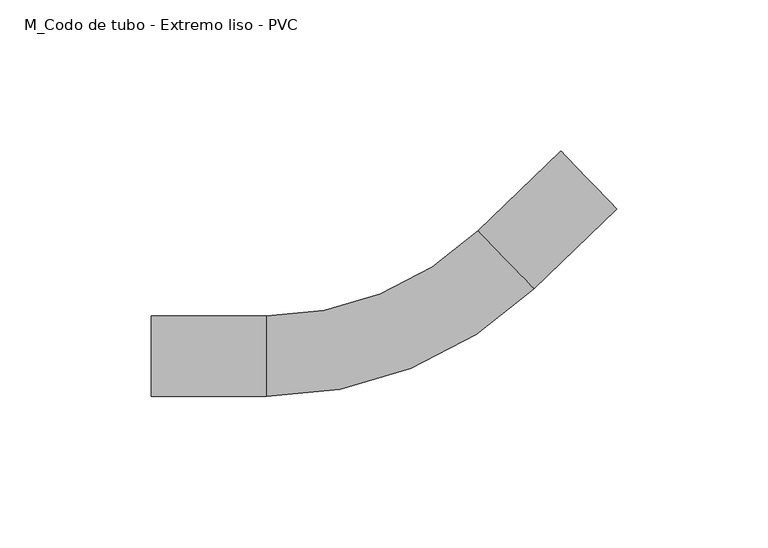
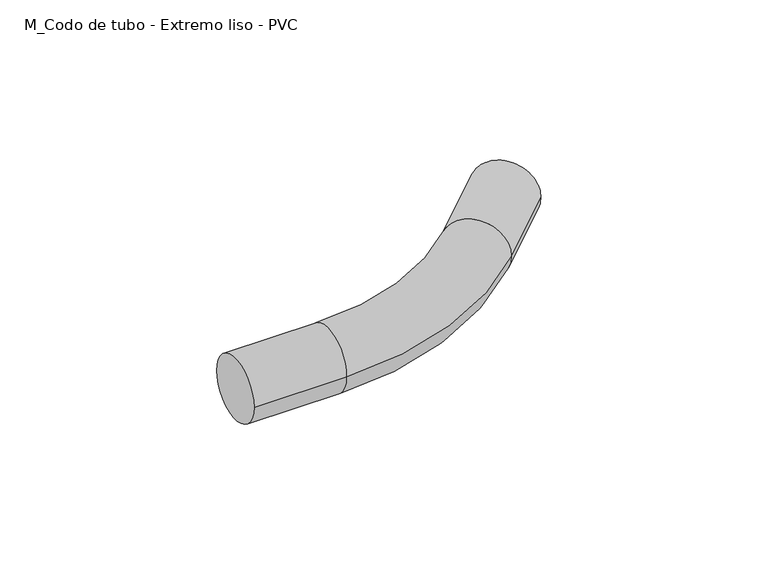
"""IFC4 building model written with IfcOpenShell, lengths in millimetres: cable carrier fitting geometry, M_Codo de tubo - Extremo liso - PVC : CODO ILUMINACION."""

from ifc_helpers import new_model, si_unit, point, frame, origin, place, context, project, spatial, circle_curve, ellipse_curve, trimmed, source, transform, mapped, element, save
from ifc_brep_helpers import plane_surface, cylinder_surface, revolved_surface, advanced_brep


def m_codo_de_tubo_extremo_liso_pvc_ebb1d42c(model_context):
    return source(origin(), model_context, "Body", "AdvancedBrep", [
        advanced_brep(
        [(-84.161185, -13.335, 0.0), (-84.161185, 13.335, 0.0), (-46.061185, -13.335, 0.0), (-46.061185, 13.335, 0.0), (23.944817, 41.5463684, 0.0), (42.4369685, 22.328428, 0.0), (69.8911691, 48.7457872, 0.0), (51.3990176, 67.9637276, 0.0)],
        [
            (0, 1, circle_curve(frame((-84.161185, 0.0, 0.0), z_axis=(-1.0, 0.0, 0.0), x_axis=(0.0, 1.0, 0.0)), 13.335)),
            (1, 0, circle_curve(frame((-84.161185, 0.0, 0.0), z_axis=(-1.0, 0.0, 0.0), x_axis=(0.0, 1.0, 0.0)), 13.335)),
            (0, 2),
            (2, 3, circle_curve(frame((-46.061185, 0.0, 0.0), z_axis=(-1.0, 0.0, 0.0), x_axis=(0.0, 1.0, 0.0)), 13.335)),
            (3, 1),
            (3, 2, circle_curve(frame((-46.061185, 0.0, 0.0), z_axis=(-1.0, 0.0, 0.0), x_axis=(0.0, 1.0, 0.0)), 13.335)),
            (4, 3, circle_curve(frame((-46.061185, 114.3, 0.0), z_axis=(0.0, 0.0, -1.0), x_axis=(0.0, -1.0, 0.0)), 100.965)),
            (2, 5, circle_curve(frame((-46.061185, 114.3, 0.0), z_axis=(0.0, 0.0, 1.0), x_axis=(0.0, -1.0, 0.0)), 127.635)),
            (5, 4, circle_curve(frame((33.1908927, 31.9373982, 0.0), z_axis=(-0.7205826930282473, -0.6933690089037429, 0.0), x_axis=(-0.6933690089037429, 0.7205826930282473, 0.0)), 13.335)),
            (4, 5, circle_curve(frame((33.1908927, 31.9373982, 0.0), z_axis=(-0.7205826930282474, -0.6933690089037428, 0.0), x_axis=(-0.6933690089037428, 0.7205826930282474, 0.0)), 13.335)),
            (6, 7, circle_curve(frame((60.6450933, 58.3547574, 0.0), z_axis=(0.7205826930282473, 0.693369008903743, 0.0), x_axis=(-0.693369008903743, 0.7205826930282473, 0.0)), 13.335)),
            (7, 6, circle_curve(frame((60.6450933, 58.3547574, 0.0), z_axis=(0.7205826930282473, 0.693369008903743, 0.0), x_axis=(-0.693369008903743, 0.7205826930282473, 0.0)), 13.335)),
            (5, 6),
            (7, 4),
        ],
        [
            plane_surface(frame((-84.161185, 0.0, 0.0), z_axis=(-1.0, 0.0, 0.0), x_axis=(0.0, 0.0, 1.0))),
            cylinder_surface(frame((-84.161185, 0.0, 0.0), z_axis=(-1.0, 0.0, 0.0), x_axis=(0.0, 1.0, 0.0)), 13.335),
            revolved_surface(trimmed(ellipse_curve(frame((-46.061185, 0.0, 0.0), z_axis=(-1.0, 0.0, 0.0), x_axis=(0.0, 1.0, 0.0)), 13.335, 13.335), [point((-46.061185, -13.335, 0.0))], [point((-46.061185, 13.335, 0.0))], True, "CARTESIAN"), (-46.061185, 114.3, 0.0), (0.0, 0.0, 1.0)),
            revolved_surface(trimmed(ellipse_curve(frame((-46.061185, 0.0, 0.0), z_axis=(-1.0, 0.0, 0.0), x_axis=(0.0, 1.0, 0.0)), 13.335, 13.335), [point((-46.061185, 13.335, 0.0))], [point((-46.061185, -13.335, 0.0))], True, "CARTESIAN"), (-46.061185, 114.3, 0.0), (0.0, 0.0, 1.0)),
            plane_surface(frame((60.6450933, 58.3547574, 0.0), z_axis=(0.7205826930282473, 0.6933690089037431, 0.0), x_axis=(0.0, 0.0, 1.0))),
            cylinder_surface(frame((33.1908927, 31.9373982, 0.0), z_axis=(-0.7205826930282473, -0.693369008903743, 0.0), x_axis=(-0.693369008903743, 0.7205826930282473, 0.0)), 13.335),
        ],
        [
            (0, [[1, 2]]),
            (1, [[-1, 3, 4, 5]]),
            (1, [[-2, -5, 6, -3]]),
            (2, [[7, -4, 8, 9]]),
            (3, [[-8, -6, -7, 10]]),
            (4, [[11, 12]]),
            (5, [[-9, 13, -12, 14]]),
            (5, [[-10, -14, -11, -13]]),
        ],
    ),
    ])


if __name__ == "__main__":
    model = new_model("IFC4")
    model_context = context("Model", 3, world=origin())
    ifc_project = project(units=[si_unit("LENGTHUNIT", "METRE", prefix="MILLI")], contexts=[model_context])
    site = spatial("IfcSite", under=ifc_project)
    building = spatial("IfcBuilding", under=site)
    placement = place(None, origin())
    m_codo_de_tubo_extremo_liso_pvc_shape = m_codo_de_tubo_extremo_liso_pvc_ebb1d42c(model_context)
    element("IfcCableCarrierFitting", 1, ObjectType="M_Codo de tubo - Extremo liso - PVC : CODO ILUMINACION", at=placement, inside=building, context=model_context, shape_type="MappedRepresentation", body=[
        mapped(m_codo_de_tubo_extremo_liso_pvc_shape, transform((0.0, 0.0, 0.0), x_axis=(1.0, 0.0, 0.0), y_axis=(0.0, 1.0, 0.0), z_axis=(0.0, 0.0, 1.0))),
    ])
    save(model, "model.ifc")
